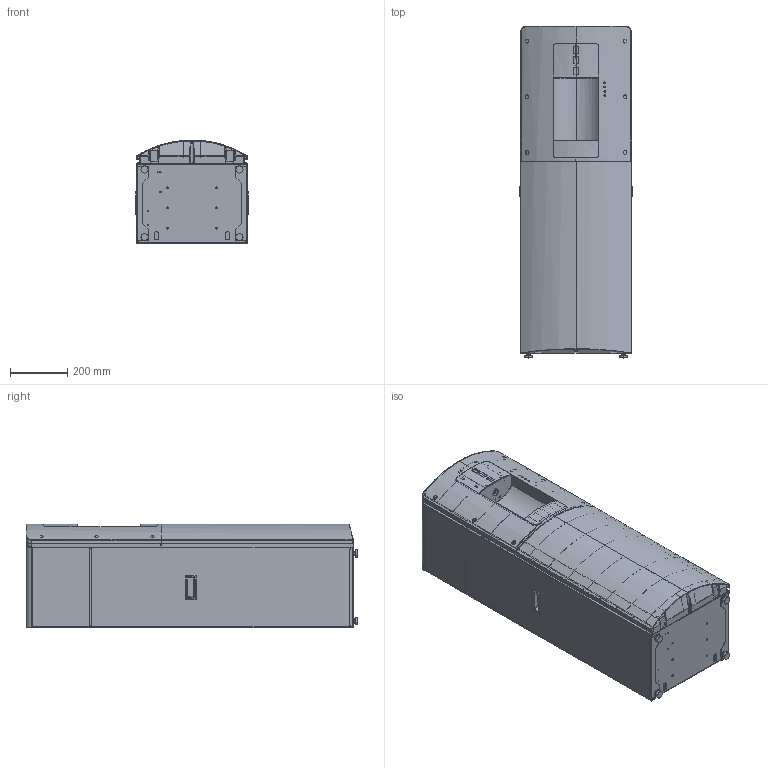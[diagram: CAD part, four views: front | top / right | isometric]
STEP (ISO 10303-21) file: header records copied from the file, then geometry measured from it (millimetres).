
FILE_DESCRIPTION((''),'2;1');
FILE_NAME('3FW_ASM_ASM','2017-05-23T',('bill'),(''),'PRO/ENGINEER BY PARAMETRIC TECHNOLOGY CORPORATION, 2014000','PRO/ENGINEER BY PARAMETRIC TECHNOLOGY CORPORATION, 2014000','');
FILE_SCHEMA(('CONFIG_CONTROL_DESIGN'));
Products named in the file (82): WL_650_DOWN_BASE_080528_DEFAULT; WL_650_DOWN_BASE_STAND_ASM_ASM__ASM; WL_650_SIDE_PANEL_LEFT_DEFAULT_; HANDLE_DEFAULT_1; NUT_M8_DEFAULT_1; GRAVITY_FOOT_DEFAULT_1; 200812_WL_650_SIDE_PANEL_ASM_AS_ASM; WL_850_UPPER_BASE_STANK_2; WL_950_UPPER_BASE_ASM_2_ASM; WL_850_FRONT_UPPER_1; WL_850_DISPLAY_INLET_1; WL_850_DRIP_TRAY_BODY_1; WL_850_DRIP_TRAY_GRILL_1; WL_850_DRIP_TRAY_ASM_2_ASM; WL_ELIS_DISPLAYCOVER_DEFAULT_1; AUFSATZ-LINEAR_AUSTRAGEN4_1; WL_850_PCB_COVER__1; WL_850_TOP_COVER_1; WL_ELIS_FRONTCOVER_LOWER_SCHR_G; WL_850_FRONT_UPPER_PANEL_ASM_2_ASM; WL_650_BACK_PANEL_STAND_DEFAULT; WL_850_BACK_PANEL_STAND_DEFAULT; 200812_WL_650_BACK_PANEL_ASM_2_ASM; GRVITY_FILTER_BRACKET_1; 200812_WL_650_FILTER_BKT_ASM_2_ASM; MANIFOLD_SOLID_BREP_210136; MANIFOLD_SOLID_BREP_210225; MANIFOLD_SOLID_BREP_210314; MANIFOLD_SOLID_BREP_210403; MANIFOLD_SOLID_BREP_210492; MANIFOLD_SOLID_BREP_210581; MANIFOLD_SOLID_BREP_210670; MANIFOLD_SOLID_BREP_210759; MANIFOLD_SOLID_BREP_210848; MANIFOLD_SOLID_BREP_210937; MANIFOLD_SOLID_BREP_211026; MANIFOLD_SOLID_BREP_211115; MANIFOLD_SOLID_BREP_211204; MANIFOLD_SOLID_BREP_211293; MANIFOLD_SOLID_BREP_211382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
Assembly tree (84 placements, depth 5):
  3FW_ASM_ASM
    3FW_ASM_1_ASM
      WL_650_DOWN_BASE_STAND_ASM_ASM__ASM
        WL_650_DOWN_BASE_080528_DEFAULT
      200812_WL_650_SIDE_PANEL_ASM_AS_ASM  x2
        WL_650_SIDE_PANEL_LEFT_DEFAULT_
        HANDLE_DEFAULT_1
        NUT_M8_DEFAULT_1
        GRAVITY_FOOT_DEFAULT_1
      WL_950_UPPER_BASE_ASM_2_ASM
        WL_850_UPPER_BASE_STANK_2
      WL_850_FRONT_UPPER_PANEL_ASM_2_ASM
        WL_850_FRONT_UPPER_1
        WL_850_DISPLAY_INLET_1
        WL_850_DRIP_TRAY_ASM_2_ASM
          WL_850_DRIP_TRAY_BODY_1
          WL_850_DRIP_TRAY_GRILL_1
        WL_ELIS_DISPLAYCOVER_DEFAULT_1
        AUFSATZ-LINEAR_AUSTRAGEN4_1
        WL_850_PCB_COVER__1
        WL_850_TOP_COVER_1
        WL_ELIS_FRONTCOVER_LOWER_SCHR_G
      200812_WL_650_BACK_PANEL_ASM_2_ASM
        WL_650_BACK_PANEL_STAND_DEFAULT
        WL_850_BACK_PANEL_STAND_DEFAULT
      200812_WL_650_FILTER_BKT_ASM_2_ASM
        GRVITY_FILTER_BRACKET_1
      GRAVITY_CONDERSER1_1_ASM
        MANIFOLD_SOLID_BREP_210136
        MANIFOLD_SOLID_BREP_210225
        MANIFOLD_SOLID_BREP_210314
        MANIFOLD_SOLID_BREP_210403
        MANIFOLD_SOLID_BREP_210492
        MANIFOLD_SOLID_BREP_210581
        MANIFOLD_SOLID_BREP_210670
        MANIFOLD_SOLID_BREP_210759
        MANIFOLD_SOLID_BREP_210848
        MANIFOLD_SOLID_BREP_210937
        MANIFOLD_SOLID_BREP_211026
        MANIFOLD_SOLID_BREP_211115
        MANIFOLD_SOLID_BREP_211204
        MANIFOLD_SOLID_BREP_211293
        MANIFOLD_SOLID_BREP_211382
        MANIFOLD_SOLID_BREP_211471
        MANIFOLD_SOLID_BREP_211560
        MANIFOLD_SOLID_BREP_211649
        MANIFOLD_SOLID_BREP_211738
        MANIFOLD_SOLID_BREP_211827
        MANIFOLD_SOLID_BREP_211916
        MANIFOLD_SOLID_BREP_212005
        MANIFOLD_SOLID_BREP_212094
        MANIFOLD_SOLID_BREP_212183
        MANIFOLD_SOLID_BREP_212272
        MANIFOLD_SOLID_BREP_212361
        MANIFOLD_SOLID_BREP_212450
        MANIFOLD_SOLID_BREP_212539
        MANIFOLD_SOLID_BREP_212628
        MANIFOLD_SOLID_BREP_212717
        MANIFOLD_SOLID_BREP_212806
        MANIFOLD_SOLID_BREP_212895
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Bounding box: 391 x 1157.2 x 361.6 mm (x, y, z)
Volume: 4641090.5 mm3; surface area: 5474748 mm2
Topology: 80 solids, 80 shells, 3625 faces, 9834 edges, 6358 vertices
Faces by surface type: plane 1688, cylinder 1321, cone 262, bspline 175, torus 137, sphere 42
Entity records: 123575 total; most frequent: CARTESIAN_POINT 37651, ORIENTED_EDGE 18066, DIRECTION 17199, EDGE_CURVE 9033, AXIS2_PLACEMENT_3D 6229, VERTEX_POINT 5869, VECTOR 4741, LINE 4741
